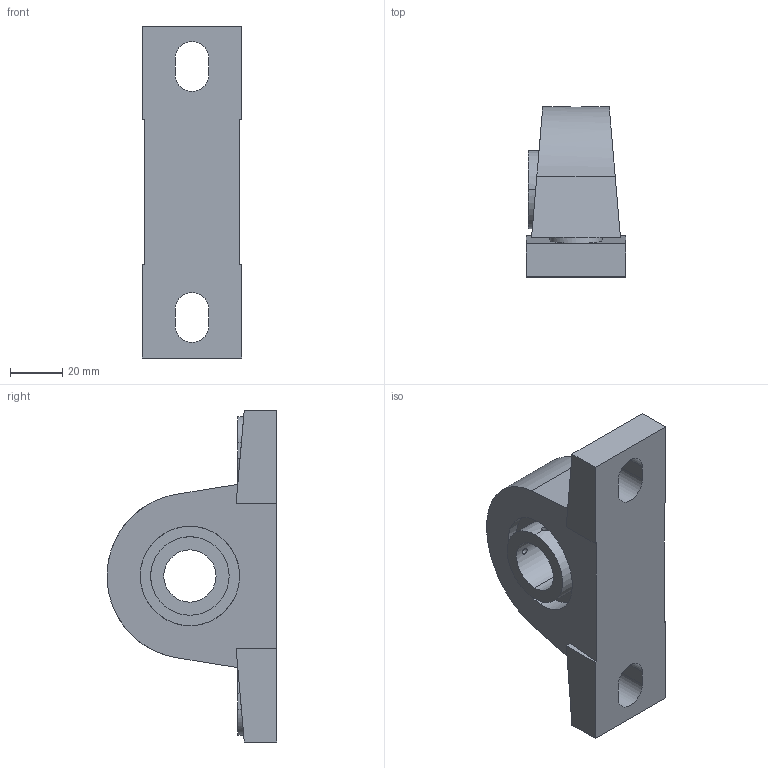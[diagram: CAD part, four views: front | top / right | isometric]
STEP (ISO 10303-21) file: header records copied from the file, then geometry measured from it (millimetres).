
FILE_DESCRIPTION (( 'STEP AP203' ), '1' );
FILE_NAME ('UCP 204.STEP', '2013-09-20T08:39:04', ( '' ), ( '' ), 'SwSTEP 2.0', 'SolidWorks 2010', '' );
FILE_SCHEMA (( 'CONFIG_CONTROL_DESIGN' ));
Length unit declared in the file: millimetre
Products named in the file (1): UCP 204
Bounding box: 38 x 65 x 127 mm (x, y, z)
Volume: 130740.3 mm3; surface area: 25839.7 mm2
Topology: 1 solids, 1 shells, 57 faces, 149 edges, 96 vertices
Faces by surface type: cylinder 26, plane 26, bspline 5
Entity records: 2455 total; most frequent: CARTESIAN_POINT 1025, ORIENTED_EDGE 298, DIRECTION 247, EDGE_CURVE 149, VERTEX_POINT 96, LINE 83, VECTOR 83, AXIS2_PLACEMENT_3D 82
